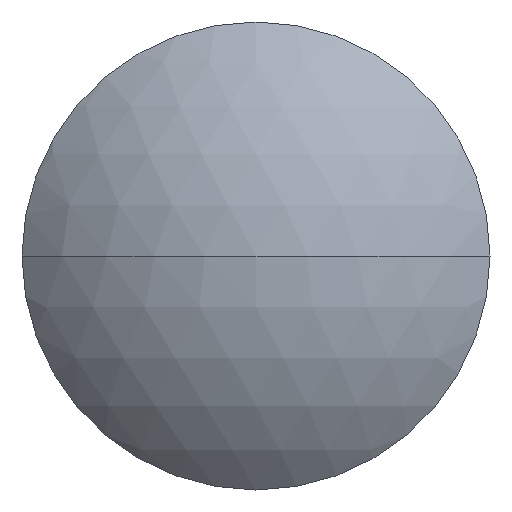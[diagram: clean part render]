
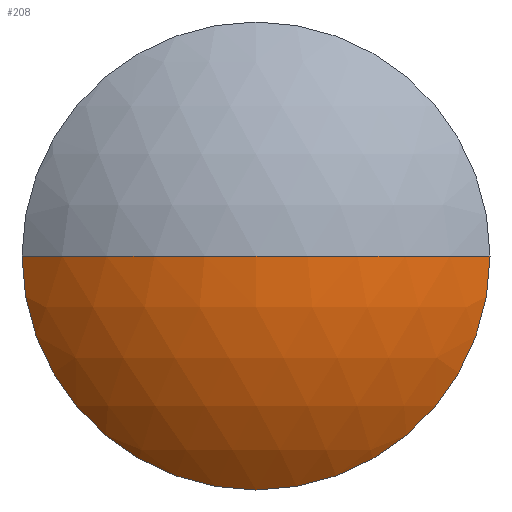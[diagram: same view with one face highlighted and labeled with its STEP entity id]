
A CAD part, left-side view. The second image highlights one B-rep face of the part: STEP entity #208.
In plain terms, the highlighted spherical face has radius 43.876 mm.
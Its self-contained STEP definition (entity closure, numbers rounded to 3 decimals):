
#1 = DIRECTION ( 'NONE',  ( 0., 1., 0. ) ) ;
#3 = DIRECTION ( 'NONE',  ( 0., 0., 1. ) ) ;
#20 = DIRECTION ( 'NONE',  ( 0., 0., 1. ) ) ;
#26 = DIRECTION ( 'NONE',  ( 0., 1., 0. ) ) ;
#43 = VERTEX_POINT ( 'NONE', #88 ) ;
#56 = EDGE_CURVE ( 'NONE', #141, #176, #198, .T. ) ;
#68 = AXIS2_PLACEMENT_3D ( 'NONE', #319, #155, #26 ) ;
#76 = FACE_OUTER_BOUND ( 'NONE', #259, .T. ) ;
#86 = AXIS2_PLACEMENT_3D ( 'NONE', #151, #154, #1 ) ;
#88 = CARTESIAN_POINT ( 'NONE',  ( -15., 0., 0. ) ) ;
#95 = ORIENTED_EDGE ( 'NONE', *, *, #143, .T. ) ;
#97 = CIRCLE ( 'NONE', #86, 43.876 ) ;
#111 = CIRCLE ( 'NONE', #333, 43.876 ) ;
#116 = CARTESIAN_POINT ( 'NONE',  ( -3., 30.15, 0. ) ) ;
#123 = VERTEX_POINT ( 'NONE', #116 ) ;
#125 = DIRECTION ( 'NONE',  ( 1., 0., 0. ) ) ;
#141 = VERTEX_POINT ( 'NONE', #236 ) ;
#143 = EDGE_CURVE ( 'NONE', #176, #43, #97, .T. ) ;
#151 = CARTESIAN_POINT ( 'NONE',  ( 28.876, 0., 0. ) ) ;
#154 = DIRECTION ( 'NONE',  ( 0., 0., -1. ) ) ;
#155 = DIRECTION ( 'NONE',  ( 0., 0., -1. ) ) ;
#160 = AXIS2_PLACEMENT_3D ( 'NONE', #207, #299, #3 ) ;
#176 = VERTEX_POINT ( 'NONE', #209 ) ;
#198 = CIRCLE ( 'NONE', #308, 30.15 ) ;
#207 = CARTESIAN_POINT ( 'NONE',  ( -3., 0., 0. ) ) ;
#208 = ADVANCED_FACE ( 'NONE', ( #76 ), #266, .T. ) ;
#209 = CARTESIAN_POINT ( 'NONE',  ( -3., -30.15, 0. ) ) ;
#222 = CARTESIAN_POINT ( 'NONE',  ( -3., 0., 0. ) ) ;
#230 = ORIENTED_EDGE ( 'NONE', *, *, #56, .T. ) ;
#236 = CARTESIAN_POINT ( 'NONE',  ( -3., 0., -30.15 ) ) ;
#250 = DIRECTION ( 'NONE',  ( 0., 0., 1. ) ) ;
#255 = ORIENTED_EDGE ( 'NONE', *, *, #300, .T. ) ;
#259 = EDGE_LOOP ( 'NONE', ( #255, #230, #95, #306 ) ) ;
#262 = CARTESIAN_POINT ( 'NONE',  ( 28.876, 0., 0. ) ) ;
#266 = SPHERICAL_SURFACE ( 'NONE', #68, 43.876 ) ;
#298 = EDGE_CURVE ( 'NONE', #123, #43, #111, .T. ) ;
#299 = DIRECTION ( 'NONE',  ( -1., 0., 0. ) ) ;
#300 = EDGE_CURVE ( 'NONE', #123, #141, #317, .T. ) ;
#306 = ORIENTED_EDGE ( 'NONE', *, *, #298, .F. ) ;
#308 = AXIS2_PLACEMENT_3D ( 'NONE', #222, #336, #250 ) ;
#317 = CIRCLE ( 'NONE', #160, 30.15 ) ;
#319 = CARTESIAN_POINT ( 'NONE',  ( 28.876, 0., 0. ) ) ;
#333 = AXIS2_PLACEMENT_3D ( 'NONE', #262, #20, #125 ) ;
#336 = DIRECTION ( 'NONE',  ( -1., 0., 0. ) ) ;
